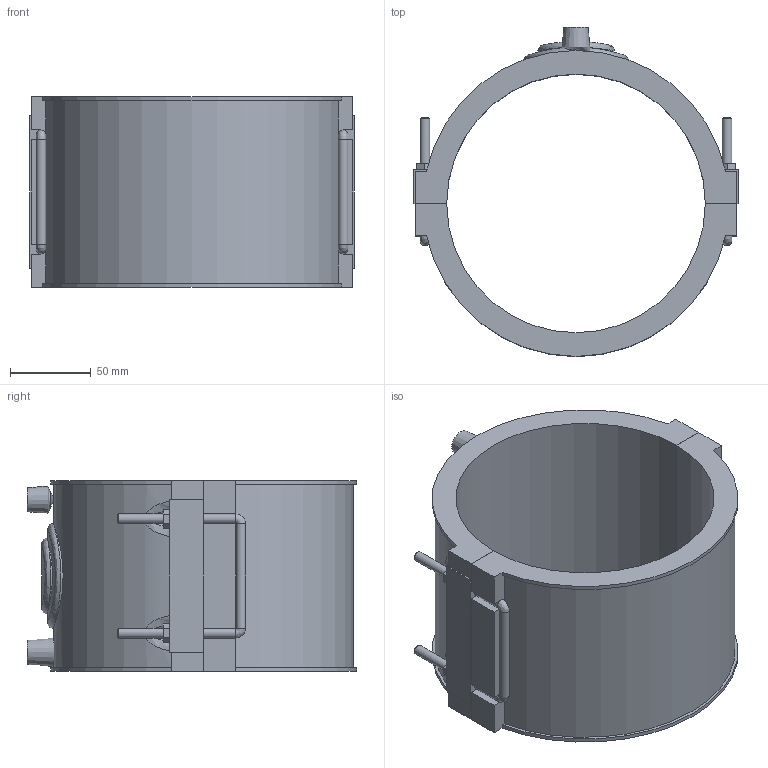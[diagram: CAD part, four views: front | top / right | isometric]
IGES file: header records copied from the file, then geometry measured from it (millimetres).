
Global section: file name: 495204160.ipt; native system: Autodesk Inventor 2015; preprocessor: unknown; author: KIM; date: 20171106.094231; units: millimetre
Bounding box: 201 x 203.66 x 118 mm (x, y, z)
Volume: 917686.2 mm3; surface area: 171082.3 mm2
Topology: 1 solids, 2 shells, 139 faces, 357 edges, 225 vertices
Faces by surface type: plane 88, cylinder 23, revolution 12, bspline 10, cone 6
Full cylindrical faces by diameter (mm): 4 x2, 6 x10, 47.2 x1, 64.9 x1
